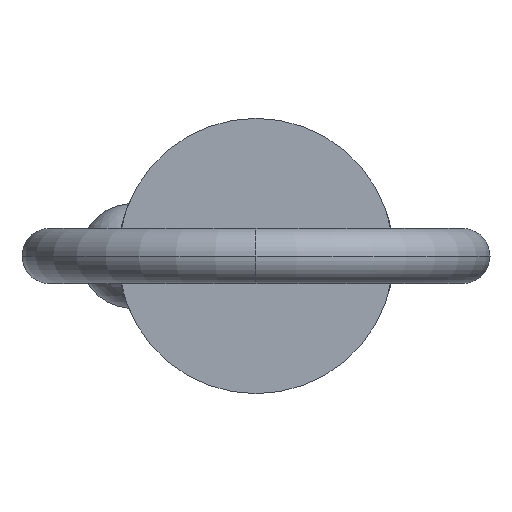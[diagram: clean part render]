
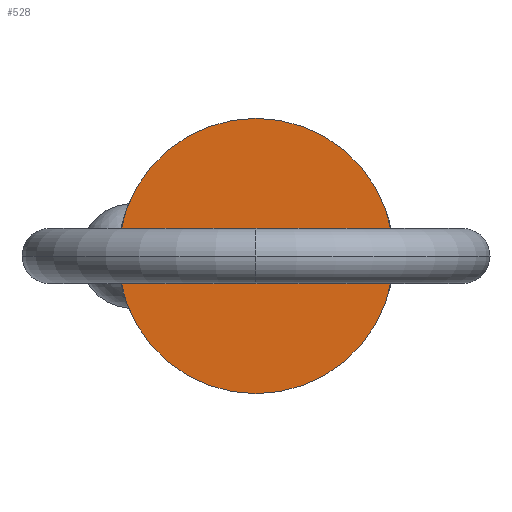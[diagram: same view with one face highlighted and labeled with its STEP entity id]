
A CAD part, left-side view. The second image highlights one B-rep face of the part: STEP entity #528.
In plain terms, the highlighted planar face has unit normal (-1, 0, 0).
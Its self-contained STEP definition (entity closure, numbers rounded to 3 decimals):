
#7 = DIRECTION ( 'NONE',  ( 0., 0., 1. ) ) ;
#40 = EDGE_CURVE ( 'NONE', #580, #228, #553, .T. ) ;
#106 = DIRECTION ( 'NONE',  ( 1., 0., 0. ) ) ;
#139 = DIRECTION ( 'NONE',  ( -1., 0., 0. ) ) ;
#146 = CARTESIAN_POINT ( 'NONE',  ( 0., 0., -12.7 ) ) ;
#177 = DIRECTION ( 'NONE',  ( 1., 0., 0. ) ) ;
#223 = FACE_OUTER_BOUND ( 'NONE', #850, .T. ) ;
#228 = VERTEX_POINT ( 'NONE', #449 ) ;
#309 = AXIS2_PLACEMENT_3D ( 'NONE', #635, #139, #7 ) ;
#322 = ORIENTED_EDGE ( 'NONE', *, *, #40, .F. ) ;
#389 = AXIS2_PLACEMENT_3D ( 'NONE', #712, #177, #416 ) ;
#416 = DIRECTION ( 'NONE',  ( 0., 0., -1. ) ) ;
#449 = CARTESIAN_POINT ( 'NONE',  ( 0., 0., 12.7 ) ) ;
#508 = CARTESIAN_POINT ( 'NONE',  ( 0., 0., 0. ) ) ;
#528 = ADVANCED_FACE ( 'NONE', ( #223 ), #841, .T. ) ;
#553 = CIRCLE ( 'NONE', #570, 12.7 ) ;
#570 = AXIS2_PLACEMENT_3D ( 'NONE', #508, #106, #890 ) ;
#580 = VERTEX_POINT ( 'NONE', #146 ) ;
#635 = CARTESIAN_POINT ( 'NONE',  ( 0., 0., 0. ) ) ;
#694 = EDGE_CURVE ( 'NONE', #228, #580, #874, .T. ) ;
#712 = CARTESIAN_POINT ( 'NONE',  ( 0., 0., 0. ) ) ;
#796 = ORIENTED_EDGE ( 'NONE', *, *, #694, .F. ) ;
#841 = PLANE ( 'NONE',  #309 ) ;
#850 = EDGE_LOOP ( 'NONE', ( #322, #796 ) ) ;
#874 = CIRCLE ( 'NONE', #389, 12.7 ) ;
#890 = DIRECTION ( 'NONE',  ( 0., 0., -1. ) ) ;
